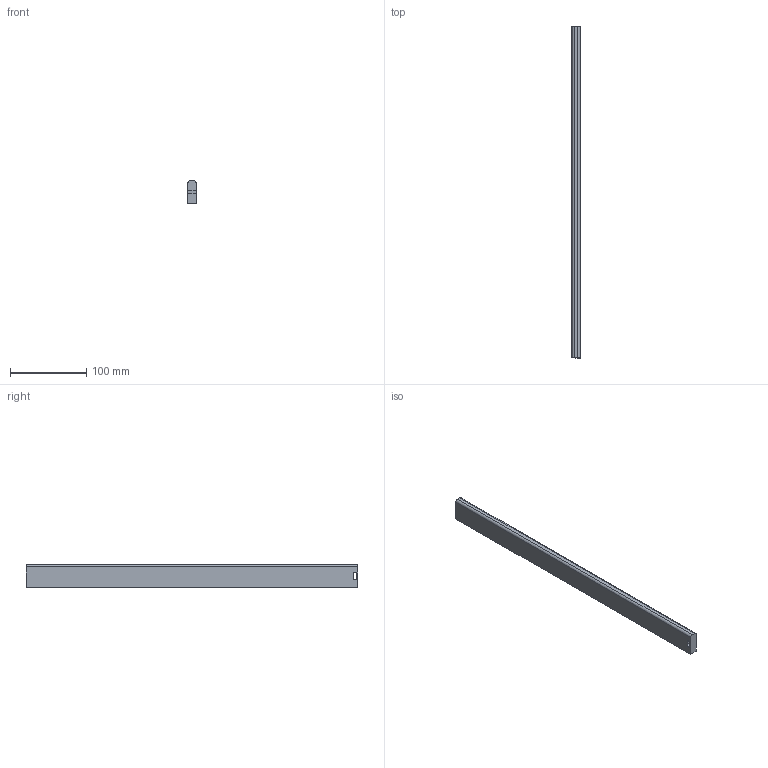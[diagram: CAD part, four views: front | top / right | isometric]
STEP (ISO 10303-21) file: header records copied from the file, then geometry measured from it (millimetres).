
FILE_DESCRIPTION (( 'STEP AP214' ), '1' );
FILE_NAME ('_Seitenreling_S610000200_RL435.step', '2010-09-06T14:51:18', ( 'grass' ), ( '' ), 'SwSTEP 2.0', 'SolidWorks 2010', '' );
FILE_SCHEMA (( 'AUTOMOTIVE_DESIGN' ));
Length unit declared in the file: millimetre
Products named in the file (1): _Seitenreling_S610000200_RL435
Bounding box: 10.5 x 435 x 30 mm (x, y, z)
Volume: 134876 mm3; surface area: 34917.7 mm2
Topology: 1 solids, 1 shells, 12 faces, 30 edges, 20 vertices
Faces by surface type: plane 8, cylinder 4
Entity records: 400 total; most frequent: DIRECTION 64, CARTESIAN_POINT 63, ORIENTED_EDGE 60, EDGE_CURVE 30, LINE 22, VECTOR 22, AXIS2_PLACEMENT_3D 21, VERTEX_POINT 20
